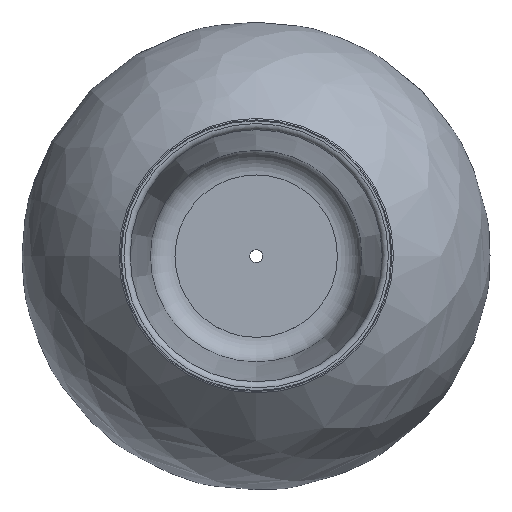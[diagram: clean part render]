
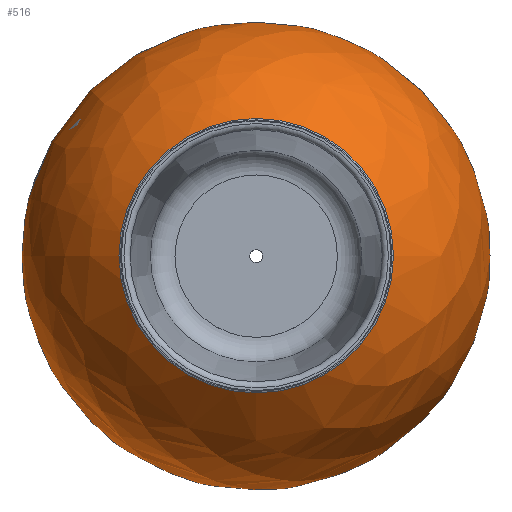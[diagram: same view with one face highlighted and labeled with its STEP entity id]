
A CAD part, top view. The second image highlights one B-rep face of the part: STEP entity #516.
In plain terms, the highlighted free-form (B-spline) face has degree [2, 2] with [5, 9] control points.
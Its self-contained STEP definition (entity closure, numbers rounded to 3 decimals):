
#26=(
BOUNDED_SURFACE()
B_SPLINE_SURFACE(2,2,((#1018,#1019,#1020,#1021,#1022,#1023,#1024,#1025,
#1026),(#1027,#1028,#1029,#1030,#1031,#1032,#1033,#1034,#1035),(#1036,#1037,
#1038,#1039,#1040,#1041,#1042,#1043,#1044),(#1045,#1046,#1047,#1048,#1049,
#1050,#1051,#1052,#1053),(#1054,#1055,#1056,#1057,#1058,#1059,#1060,#1061,
#1062)),.UNSPECIFIED.,.F.,.T.,.F.)
B_SPLINE_SURFACE_WITH_KNOTS((3,2,3),(3,2,2,2,3),(-1.365,-0.21,
0.945),(-3.142,-1.571,0.,1.571,
3.142),.UNSPECIFIED.)
GEOMETRIC_REPRESENTATION_ITEM()
RATIONAL_B_SPLINE_SURFACE(((1.,0.707,1.,0.707,1.,
0.707,1.,0.707,1.),(0.838,0.592,
0.838,0.592,0.838,0.592,
0.838,0.592,0.838),(1.,0.707,
1.,0.707,1.,0.707,1.,0.707,1.),(0.838,
0.592,0.838,0.592,0.838,0.592,
0.838,0.592,0.838),(1.,0.707,
1.,0.707,1.,0.707,1.,0.707,1.)))
REPRESENTATION_ITEM('')
SURFACE()
);
#60=FACE_OUTER_BOUND('',#88,.T.);
#88=EDGE_LOOP('',(#445,#446,#447,#448,#449,#450));
#166=CIRCLE('',#613,38.908);
#167=CIRCLE('',#614,38.908);
#168=CIRCLE('',#615,111.355);
#169=CIRCLE('',#616,111.355);
#170=CIRCLE('',#617,190.154);
#232=VERTEX_POINT('',#1013);
#233=VERTEX_POINT('',#1015);
#234=VERTEX_POINT('',#1063);
#235=VERTEX_POINT('',#1064);
#308=EDGE_CURVE('',#233,#232,#166,.T.);
#309=EDGE_CURVE('',#232,#233,#167,.T.);
#310=EDGE_CURVE('',#234,#235,#168,.T.);
#311=EDGE_CURVE('',#235,#234,#169,.T.);
#312=EDGE_CURVE('',#235,#232,#170,.T.);
#445=ORIENTED_EDGE('',*,*,#310,.F.);
#446=ORIENTED_EDGE('',*,*,#311,.F.);
#447=ORIENTED_EDGE('',*,*,#312,.T.);
#448=ORIENTED_EDGE('',*,*,#309,.T.);
#449=ORIENTED_EDGE('',*,*,#308,.T.);
#450=ORIENTED_EDGE('',*,*,#312,.F.);
#516=ADVANCED_FACE('',(#60),#26,.F.);
#613=AXIS2_PLACEMENT_3D('',#1016,#788,#789);
#614=AXIS2_PLACEMENT_3D('',#1017,#790,#791);
#615=AXIS2_PLACEMENT_3D('',#1065,#792,#793);
#616=AXIS2_PLACEMENT_3D('',#1066,#794,#795);
#617=AXIS2_PLACEMENT_3D('',#1067,#796,#797);
#788=DIRECTION('center_axis',(0.,0.,1.));
#789=DIRECTION('ref_axis',(1.,0.,0.));
#790=DIRECTION('center_axis',(0.,0.,1.));
#791=DIRECTION('ref_axis',(1.,0.,0.));
#792=DIRECTION('center_axis',(0.,0.,1.));
#793=DIRECTION('ref_axis',(1.,0.,0.));
#794=DIRECTION('center_axis',(0.,0.,1.));
#795=DIRECTION('ref_axis',(1.,0.,0.));
#796=DIRECTION('center_axis',(0.,-1.,0.));
#797=DIRECTION('ref_axis',(-1.,0.,0.));
#1013=CARTESIAN_POINT('',(-38.908,276.62,553.067));
#1015=CARTESIAN_POINT('',(0.,237.711,553.067));
#1016=CARTESIAN_POINT('Origin',(0.,276.62,553.067));
#1017=CARTESIAN_POINT('Origin',(0.,276.62,553.067));
#1018=CARTESIAN_POINT('Ctrl Pts',(-38.908,276.62,553.067));
#1019=CARTESIAN_POINT('Ctrl Pts',(-38.908,237.711,553.067));
#1020=CARTESIAN_POINT('Ctrl Pts',(0.,237.711,553.067));
#1021=CARTESIAN_POINT('Ctrl Pts',(38.908,237.711,553.067));
#1022=CARTESIAN_POINT('Ctrl Pts',(38.908,276.62,553.067));
#1023=CARTESIAN_POINT('Ctrl Pts',(38.908,315.528,553.067));
#1024=CARTESIAN_POINT('Ctrl Pts',(0.,315.528,553.067));
#1025=CARTESIAN_POINT('Ctrl Pts',(-38.908,315.528,553.067));
#1026=CARTESIAN_POINT('Ctrl Pts',(-38.908,276.62,553.067));
#1027=CARTESIAN_POINT('Ctrl Pts',(-160.197,276.62,578.412));
#1028=CARTESIAN_POINT('Ctrl Pts',(-160.197,116.423,578.412));
#1029=CARTESIAN_POINT('Ctrl Pts',(0.,116.423,578.412));
#1030=CARTESIAN_POINT('Ctrl Pts',(160.197,116.423,578.412));
#1031=CARTESIAN_POINT('Ctrl Pts',(160.197,276.62,578.412));
#1032=CARTESIAN_POINT('Ctrl Pts',(160.197,436.817,578.412));
#1033=CARTESIAN_POINT('Ctrl Pts',(0.,436.817,578.412));
#1034=CARTESIAN_POINT('Ctrl Pts',(-160.197,436.817,578.412));
#1035=CARTESIAN_POINT('Ctrl Pts',(-160.197,276.62,578.412));
#1036=CARTESIAN_POINT('Ctrl Pts',(-185.999,276.62,699.604));
#1037=CARTESIAN_POINT('Ctrl Pts',(-185.999,90.621,699.604));
#1038=CARTESIAN_POINT('Ctrl Pts',(0.,90.621,699.604));
#1039=CARTESIAN_POINT('Ctrl Pts',(185.999,90.621,699.604));
#1040=CARTESIAN_POINT('Ctrl Pts',(185.999,276.62,699.604));
#1041=CARTESIAN_POINT('Ctrl Pts',(185.999,462.619,699.604));
#1042=CARTESIAN_POINT('Ctrl Pts',(0.,462.619,699.604));
#1043=CARTESIAN_POINT('Ctrl Pts',(-185.999,462.619,699.604));
#1044=CARTESIAN_POINT('Ctrl Pts',(-185.999,276.62,699.604));
#1045=CARTESIAN_POINT('Ctrl Pts',(-211.801,276.62,820.796));
#1046=CARTESIAN_POINT('Ctrl Pts',(-211.801,64.819,820.796));
#1047=CARTESIAN_POINT('Ctrl Pts',(0.,64.819,
820.796));
#1048=CARTESIAN_POINT('Ctrl Pts',(211.801,64.819,820.796));
#1049=CARTESIAN_POINT('Ctrl Pts',(211.801,276.62,820.796));
#1050=CARTESIAN_POINT('Ctrl Pts',(211.801,488.421,820.796));
#1051=CARTESIAN_POINT('Ctrl Pts',(0.,488.421,
820.796));
#1052=CARTESIAN_POINT('Ctrl Pts',(-211.801,488.421,820.796));
#1053=CARTESIAN_POINT('Ctrl Pts',(-211.801,276.62,820.796));
#1054=CARTESIAN_POINT('Ctrl Pts',(-111.355,276.62,893.349));
#1055=CARTESIAN_POINT('Ctrl Pts',(-111.355,165.264,893.349));
#1056=CARTESIAN_POINT('Ctrl Pts',(0.,165.264,893.349));
#1057=CARTESIAN_POINT('Ctrl Pts',(111.355,165.264,893.349));
#1058=CARTESIAN_POINT('Ctrl Pts',(111.355,276.62,893.349));
#1059=CARTESIAN_POINT('Ctrl Pts',(111.355,387.975,893.349));
#1060=CARTESIAN_POINT('Ctrl Pts',(0.,387.975,893.349));
#1061=CARTESIAN_POINT('Ctrl Pts',(-111.355,387.975,893.349));
#1062=CARTESIAN_POINT('Ctrl Pts',(-111.355,276.62,893.349));
#1063=CARTESIAN_POINT('',(0.,165.264,893.349));
#1064=CARTESIAN_POINT('',(-111.355,276.62,893.349));
#1065=CARTESIAN_POINT('Origin',(0.,276.62,893.349));
#1066=CARTESIAN_POINT('Origin',(0.,276.62,893.349));
#1067=CARTESIAN_POINT('Origin',(-0.013,276.62,739.201));
